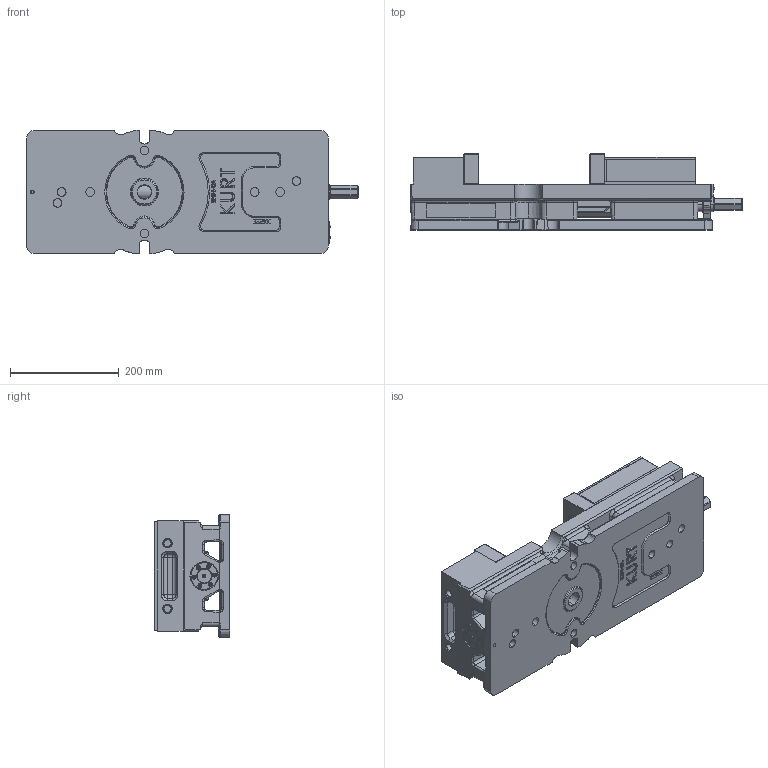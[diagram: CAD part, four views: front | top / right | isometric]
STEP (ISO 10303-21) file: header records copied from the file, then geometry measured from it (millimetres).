
FILE_DESCRIPTION (( 'STEP AP203' ), '1' );
FILE_NAME ('DX8-WEB Convert.STEP', '2021-12-27T13:42:28', ( '' ), ( '' ), 'SwSTEP 2.0', 'SolidWorks 2021', '' );
FILE_SCHEMA (( 'CONFIG_CONTROL_DESIGN' ));
Products named in the file (1): DX8-WEB Convert
Bounding box: 611.55 x 139.95 x 228.27 mm (x, y, z)
Volume: 9141044.2 mm3; surface area: 1061004.9 mm2
Topology: 39 solids, 39 shells, 2845 faces, 7033 edges, 4282 vertices
Faces by surface type: plane 1243, cylinder 711, bspline 393, cone 263, torus 169, sphere 66
Entity records: 109246 total; most frequent: CARTESIAN_POINT 45571, ORIENTED_EDGE 13846, DIRECTION 12272, EDGE_CURVE 6923, VERTEX_POINT 4282, AXIS2_PLACEMENT_3D 4238, LINE 3796, VECTOR 3796
